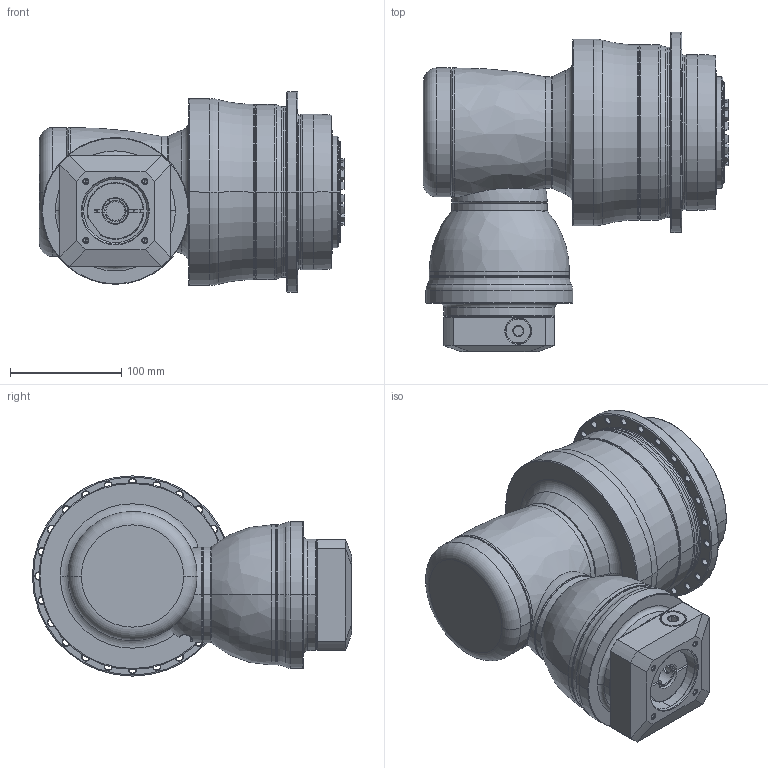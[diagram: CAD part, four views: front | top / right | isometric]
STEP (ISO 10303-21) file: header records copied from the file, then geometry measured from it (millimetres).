
FILE_DESCRIPTION((''),'2;1');
FILE_NAME('APCK140_3ST_19-P0409410201_ASM','2018-05-11T',('d01226'),(''),'PRO/ENGINEER BY PARAMETRIC TECHNOLOGY CORPORATION, 2008410','PRO/ENGINEER BY PARAMETRIC TECHNOLOGY CORPORATION, 2008410','');
FILE_SCHEMA(('CONFIG_CONTROL_DESIGN'));
Length unit declared in the file: millimetre
Products named in the file (13): P1008400002; P1832500001; P0278501003; P03595D0103; P1211500001; P1315400001; P1007401001; P1318410001; P0409410201; P0503400008; P0129400001; 21711416017; APCK140_3ST_19-P0409410201_ASM
Assembly tree (12 placements, depth 2):
  APCK140_3ST_19-P0409410201_ASM
    P1008400002
    P1832500001
    P0278501003
    P03595D0103
    P1211500001
    P1315400001
    P1007401001
    P1318410001
    P0409410201
    P0503400008
    P0129400001
    21711416017
Bounding box: 274.4 x 287 x 180 mm (x, y, z)
Volume: 5010309.5 mm3; surface area: 518103.5 mm2
Topology: 13 solids, 23 shells, 733 faces, 1710 edges, 1036 vertices
Faces by surface type: cylinder 225, cone 224, plane 134, torus 118, bspline 30, sphere 2
Entity records: 24116 total; most frequent: CARTESIAN_POINT 6875, DIRECTION 3876, ORIENTED_EDGE 3350, AXIS2_PLACEMENT_3D 1699, EDGE_CURVE 1696, VERTEX_POINT 1036, CIRCLE 961, EDGE_LOOP 842
